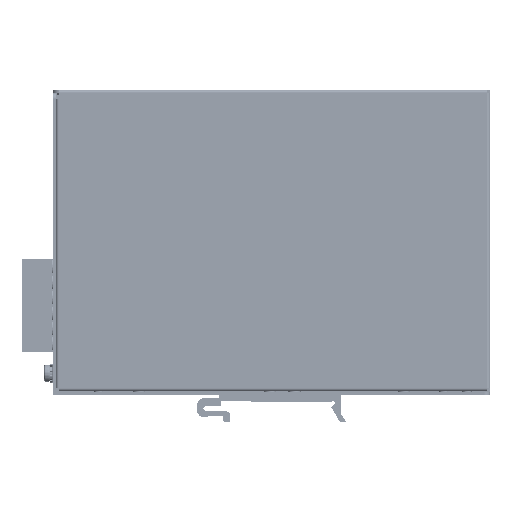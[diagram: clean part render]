
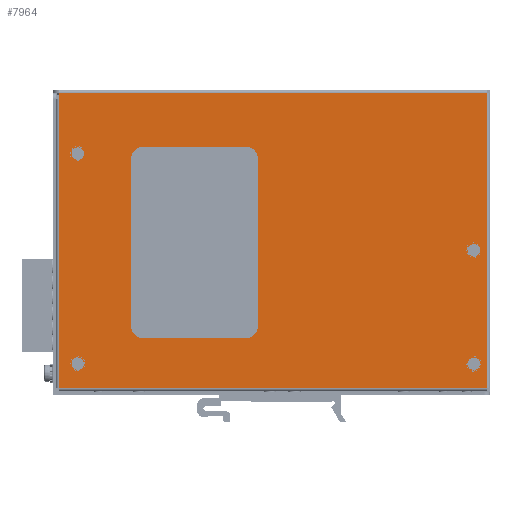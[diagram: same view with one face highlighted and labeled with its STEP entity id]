
A CAD part, front view. The second image highlights one B-rep face of the part: STEP entity #7964.
In plain terms, the highlighted planar face has unit normal (0, -1, 0).
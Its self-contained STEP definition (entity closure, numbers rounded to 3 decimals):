
#1=CARTESIAN_POINT('',(65.27,0.,-39.98));
#2=DIRECTION('',(0.,-1.,0.));
#3=DIRECTION('',(1.,0.,0.));
#4=AXIS2_PLACEMENT_3D('',#1,#2,#3);
#6=CARTESIAN_POINT('',(65.27,0.,-39.98));
#7=DIRECTION('',(0.,-1.,0.));
#8=DIRECTION('',(-1.,0.,0.));
#9=AXIS2_PLACEMENT_3D('',#6,#7,#8);
#11=CARTESIAN_POINT('',(65.27,0.,-3.15));
#12=DIRECTION('',(0.,-1.,0.));
#13=DIRECTION('',(1.,0.,0.));
#14=AXIS2_PLACEMENT_3D('',#11,#12,#13);
#16=CARTESIAN_POINT('',(65.27,0.,-3.15));
#17=DIRECTION('',(0.,-1.,0.));
#18=DIRECTION('',(-1.,0.,0.));
#19=AXIS2_PLACEMENT_3D('',#16,#17,#18);
#21=CARTESIAN_POINT('',(-63.32,0.,-39.98));
#22=DIRECTION('',(0.,-1.,0.));
#23=DIRECTION('',(1.,0.,0.));
#24=AXIS2_PLACEMENT_3D('',#21,#22,#23);
#26=CARTESIAN_POINT('',(-63.32,0.,-39.98));
#27=DIRECTION('',(0.,-1.,0.));
#28=DIRECTION('',(-1.,0.,0.));
#29=AXIS2_PLACEMENT_3D('',#26,#27,#28);
#31=CARTESIAN_POINT('',(-63.32,0.,28.22));
#32=DIRECTION('',(0.,-1.,0.));
#33=DIRECTION('',(1.,0.,0.));
#34=AXIS2_PLACEMENT_3D('',#31,#32,#33);
#36=CARTESIAN_POINT('',(-63.32,0.,28.22));
#37=DIRECTION('',(0.,-1.,0.));
#38=DIRECTION('',(-1.,0.,0.));
#39=AXIS2_PLACEMENT_3D('',#36,#37,#38);
#41=DIRECTION('',(-1.,0.,0.));
#42=VECTOR('',#41,33.2);
#43=CARTESIAN_POINT('',(-8.8,0.,30.5));
#44=LINE('',#43,#42);
#45=CARTESIAN_POINT('',(-42.,0.,26.5));
#46=DIRECTION('',(0.,-1.,0.));
#47=DIRECTION('',(0.,0.,1.));
#48=AXIS2_PLACEMENT_3D('',#45,#46,#47);
#50=DIRECTION('',(0.,0.,-1.));
#51=VECTOR('',#50,54.2);
#52=CARTESIAN_POINT('',(-46.,0.,26.5));
#53=LINE('',#52,#51);
#54=CARTESIAN_POINT('',(-42.,0.,-27.7));
#55=DIRECTION('',(0.,-1.,0.));
#56=DIRECTION('',(-1.,0.,0.));
#57=AXIS2_PLACEMENT_3D('',#54,#55,#56);
#59=DIRECTION('',(1.,0.,0.));
#60=VECTOR('',#59,33.2);
#61=CARTESIAN_POINT('',(-42.,0.,-31.7));
#62=LINE('',#61,#60);
#63=CARTESIAN_POINT('',(-8.8,0.,-27.7));
#64=DIRECTION('',(0.,-1.,0.));
#65=DIRECTION('',(0.,0.,-1.));
#66=AXIS2_PLACEMENT_3D('',#63,#64,#65);
#68=DIRECTION('',(0.,0.,1.));
#69=VECTOR('',#68,54.2);
#70=CARTESIAN_POINT('',(-4.8,0.,-27.7));
#71=LINE('',#70,#69);
#72=CARTESIAN_POINT('',(-8.8,0.,26.5));
#73=DIRECTION('',(0.,-1.,0.));
#74=DIRECTION('',(1.,0.,0.));
#75=AXIS2_PLACEMENT_3D('',#72,#73,#74);
#81=DIRECTION('',(0.,0.,-1.));
#82=VECTOR('',#81,1.8);
#83=CARTESIAN_POINT('',(-69.5,0.,47.9));
#84=LINE('',#83,#82);
#529=DIRECTION('',(1.,0.,0.));
#530=VECTOR('',#529,139.);
#531=CARTESIAN_POINT('',(-69.5,0.,-47.9));
#532=LINE('',#531,#530);
#724=DIRECTION('',(0.,0.,-1.));
#725=VECTOR('',#724,94.);
#726=CARTESIAN_POINT('',(-69.5,0.,46.1));
#727=LINE('',#726,#725);
#869=DIRECTION('',(0.,0.,1.));
#870=VECTOR('',#869,95.8);
#871=CARTESIAN_POINT('',(69.5,0.,-47.9));
#872=LINE('',#871,#870);
#2408=DIRECTION('',(-1.,0.,0.));
#2409=VECTOR('',#2408,139.);
#2410=CARTESIAN_POINT('',(69.5,0.,47.9));
#2411=LINE('',#2410,#2409);
#6161=CARTESIAN_POINT('',(-69.5,0.,47.9));
#6162=CARTESIAN_POINT('',(-69.5,0.,46.1));
#6163=VERTEX_POINT('',#6161);
#6164=VERTEX_POINT('',#6162);
#6165=CARTESIAN_POINT('',(69.5,0.,47.9));
#6166=VERTEX_POINT('',#6165);
#6167=CARTESIAN_POINT('',(69.5,0.,-47.9));
#6168=VERTEX_POINT('',#6167);
#6169=CARTESIAN_POINT('',(-69.5,0.,-47.9));
#6170=VERTEX_POINT('',#6169);
#6171=CARTESIAN_POINT('',(67.27,0.,-39.98));
#6172=CARTESIAN_POINT('',(63.27,0.,-39.98));
#6173=VERTEX_POINT('',#6171);
#6174=VERTEX_POINT('',#6172);
#6175=CARTESIAN_POINT('',(67.27,0.,-3.15));
#6176=CARTESIAN_POINT('',(63.27,0.,-3.15));
#6177=VERTEX_POINT('',#6175);
#6178=VERTEX_POINT('',#6176);
#6179=CARTESIAN_POINT('',(-61.32,0.,-39.98));
#6180=CARTESIAN_POINT('',(-65.32,0.,-39.98));
#6181=VERTEX_POINT('',#6179);
#6182=VERTEX_POINT('',#6180);
#6183=CARTESIAN_POINT('',(-61.32,0.,28.22));
#6184=CARTESIAN_POINT('',(-65.32,0.,28.22));
#6185=VERTEX_POINT('',#6183);
#6186=VERTEX_POINT('',#6184);
#6187=CARTESIAN_POINT('',(-8.8,0.,30.5));
#6188=CARTESIAN_POINT('',(-42.,0.,30.5));
#6189=VERTEX_POINT('',#6187);
#6190=VERTEX_POINT('',#6188);
#6191=CARTESIAN_POINT('',(-46.,0.,26.5));
#6192=VERTEX_POINT('',#6191);
#6193=CARTESIAN_POINT('',(-46.,0.,-27.7));
#6194=VERTEX_POINT('',#6193);
#6195=CARTESIAN_POINT('',(-42.,0.,-31.7));
#6196=VERTEX_POINT('',#6195);
#6197=CARTESIAN_POINT('',(-8.8,0.,-31.7));
#6198=VERTEX_POINT('',#6197);
#6199=CARTESIAN_POINT('',(-4.8,0.,-27.7));
#6200=VERTEX_POINT('',#6199);
#6201=CARTESIAN_POINT('',(-4.8,0.,26.5));
#6202=VERTEX_POINT('',#6201);
#7905=CARTESIAN_POINT('',(0.,0.,0.));
#7906=DIRECTION('',(0.,1.,0.));
#7907=DIRECTION('',(1.,0.,0.));
#7908=AXIS2_PLACEMENT_3D('',#7905,#7906,#7907);
#7909=PLANE('',#7908);
#7911=ORIENTED_EDGE('',*,*,#7910,.F.);
#7913=ORIENTED_EDGE('',*,*,#7912,.F.);
#7915=ORIENTED_EDGE('',*,*,#7914,.F.);
#7917=ORIENTED_EDGE('',*,*,#7916,.F.);
#7919=ORIENTED_EDGE('',*,*,#7918,.F.);
#7920=EDGE_LOOP('',(#7911,#7913,#7915,#7917,#7919));
#7921=FACE_OUTER_BOUND('',#7920,.F.);
#7923=ORIENTED_EDGE('',*,*,#7922,.T.);
#7925=ORIENTED_EDGE('',*,*,#7924,.T.);
#7926=EDGE_LOOP('',(#7923,#7925));
#7927=FACE_BOUND('',#7926,.F.);
#7929=ORIENTED_EDGE('',*,*,#7928,.T.);
#7931=ORIENTED_EDGE('',*,*,#7930,.T.);
#7932=EDGE_LOOP('',(#7929,#7931));
#7933=FACE_BOUND('',#7932,.F.);
#7935=ORIENTED_EDGE('',*,*,#7934,.T.);
#7937=ORIENTED_EDGE('',*,*,#7936,.T.);
#7938=EDGE_LOOP('',(#7935,#7937));
#7939=FACE_BOUND('',#7938,.F.);
#7941=ORIENTED_EDGE('',*,*,#7940,.T.);
#7943=ORIENTED_EDGE('',*,*,#7942,.T.);
#7944=EDGE_LOOP('',(#7941,#7943));
#7945=FACE_BOUND('',#7944,.F.);
#7947=ORIENTED_EDGE('',*,*,#7946,.T.);
#7949=ORIENTED_EDGE('',*,*,#7948,.T.);
#7951=ORIENTED_EDGE('',*,*,#7950,.T.);
#7953=ORIENTED_EDGE('',*,*,#7952,.T.);
#7955=ORIENTED_EDGE('',*,*,#7954,.T.);
#7957=ORIENTED_EDGE('',*,*,#7956,.T.);
#7959=ORIENTED_EDGE('',*,*,#7958,.T.);
#7961=ORIENTED_EDGE('',*,*,#7960,.T.);
#7962=EDGE_LOOP('',(#7947,#7949,#7951,#7953,#7955,#7957,#7959,#7961));
#7963=FACE_BOUND('',#7962,.F.);
#5=CIRCLE('',#4,2.);
#10=CIRCLE('',#9,2.);
#15=CIRCLE('',#14,2.);
#20=CIRCLE('',#19,2.);
#25=CIRCLE('',#24,2.);
#30=CIRCLE('',#29,2.);
#35=CIRCLE('',#34,2.);
#40=CIRCLE('',#39,2.);
#49=CIRCLE('',#48,4.);
#58=CIRCLE('',#57,4.);
#67=CIRCLE('',#66,4.);
#76=CIRCLE('',#75,4.);
#7910=EDGE_CURVE('',#6163,#6164,#84,.T.);
#7912=EDGE_CURVE('',#6166,#6163,#2411,.T.);
#7914=EDGE_CURVE('',#6168,#6166,#872,.T.);
#7916=EDGE_CURVE('',#6170,#6168,#532,.T.);
#7918=EDGE_CURVE('',#6164,#6170,#727,.T.);
#7922=EDGE_CURVE('',#6173,#6174,#5,.T.);
#7924=EDGE_CURVE('',#6174,#6173,#10,.T.);
#7928=EDGE_CURVE('',#6177,#6178,#15,.T.);
#7930=EDGE_CURVE('',#6178,#6177,#20,.T.);
#7934=EDGE_CURVE('',#6181,#6182,#25,.T.);
#7936=EDGE_CURVE('',#6182,#6181,#30,.T.);
#7940=EDGE_CURVE('',#6185,#6186,#35,.T.);
#7942=EDGE_CURVE('',#6186,#6185,#40,.T.);
#7946=EDGE_CURVE('',#6189,#6190,#44,.T.);
#7948=EDGE_CURVE('',#6190,#6192,#49,.T.);
#7950=EDGE_CURVE('',#6192,#6194,#53,.T.);
#7952=EDGE_CURVE('',#6194,#6196,#58,.T.);
#7954=EDGE_CURVE('',#6196,#6198,#62,.T.);
#7956=EDGE_CURVE('',#6198,#6200,#67,.T.);
#7958=EDGE_CURVE('',#6200,#6202,#71,.T.);
#7960=EDGE_CURVE('',#6202,#6189,#76,.T.);
#7964=ADVANCED_FACE('',(#7921,#7927,#7933,#7939,#7945,#7963),#7909,.F.);
